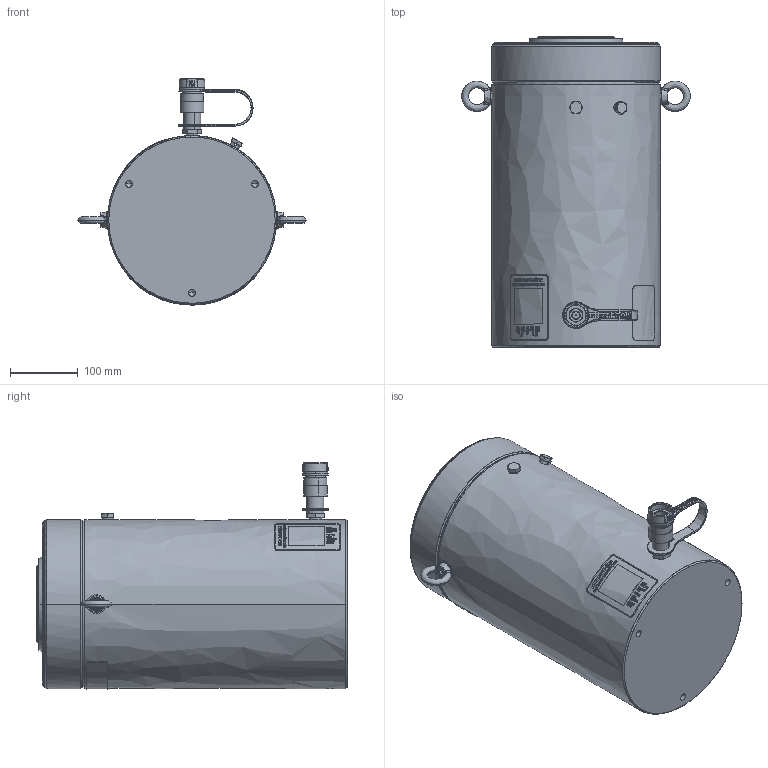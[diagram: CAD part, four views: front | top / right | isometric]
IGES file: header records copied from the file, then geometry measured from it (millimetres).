
Start section:  PTC IGES file: hcg20010.igs
Global section: file name: hcg20010.igs; native system: Creo Parametric by PTC Inc.; preprocessor: 2015290; author: Akhilesh.Subrahmanya; organization: Unknown; date: 20170707.141157; units: millimetre
Bounding box: 337.88 x 459 x 334.74 mm (x, y, z)
Surface area: 919129.7 mm2 (no closed solid volume)
Topology: 0 solids, 0 shells, 674 faces, 5986 edges, 5972 vertices
Faces by surface type: revolution 386, bspline 278, extrusion 10
